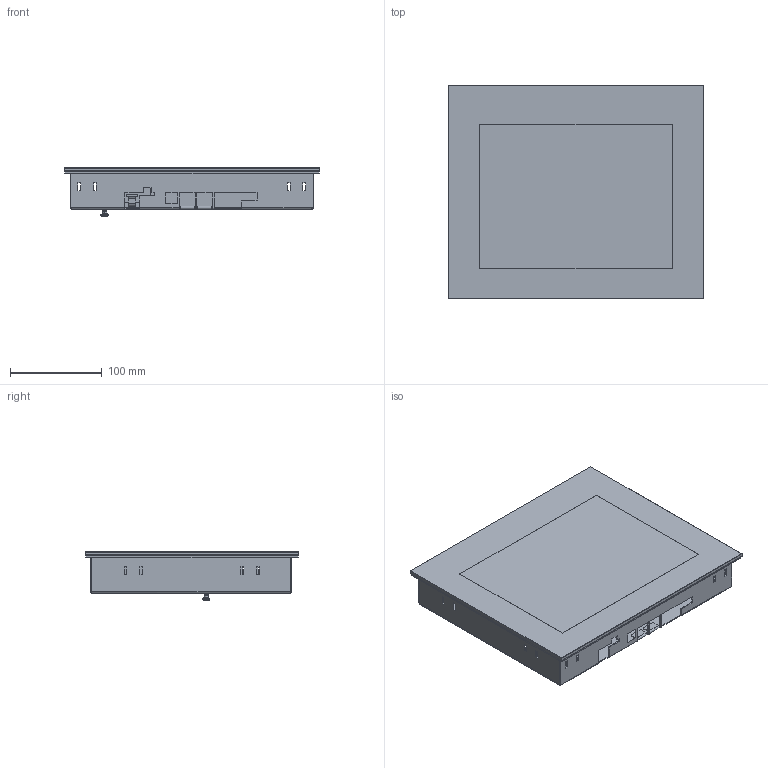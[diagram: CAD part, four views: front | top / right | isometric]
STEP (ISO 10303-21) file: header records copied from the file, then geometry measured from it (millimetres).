
FILE_DESCRIPTION (( 'STEP AP214' ), '1' );
FILE_NAME ('01-230-1033 ETT1033 für Support.STEP', '2017-08-14T05:10:16', ( 'SIGMATEK GmbH & Co KG' ), ( 'SIGMATEK GmbH & Co KG' ), 'SwSTEP 2.0', 'SolidWorks 2017', '' );
FILE_SCHEMA (( 'AUTOMOTIVE_DESIGN' ));
Length unit declared in the file: millimetre
Products named in the file (4): ETT1033 Abdeckhaube f黵 Support; 01-230-1033 ETT1033 f黵 Support; 10,4 Zoll Terminal_HT-Tech f黵 Support; Halsschraube M2,5x12,3 21101749
Assembly tree (3 placements, depth 2):
  01-230-1033 ETT1033 f黵 Support
    ETT1033 Abdeckhaube f黵 Support
    Halsschraube M2,5x12,3 21101749
    10,4 Zoll Terminal_HT-Tech f黵 Support
Bounding box: 279.2 x 233.4 x 53 mm (x, y, z)
Volume: 394385 mm3; surface area: 516503 mm2
Topology: 7 solids, 7 shells, 473 faces, 1292 edges, 839 vertices
Faces by surface type: plane 385, cylinder 64, bspline 10, torus 8, cone 6
Entity records: 16583 total; most frequent: CARTESIAN_POINT 3144, ORIENTED_EDGE 2580, DIRECTION 2310, EDGE_CURVE 1290, LINE 1112, VECTOR 1112, VERTEX_POINT 839, AXIS2_PLACEMENT_3D 599
